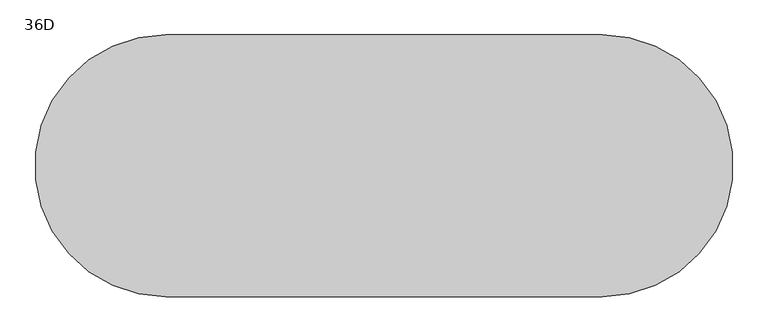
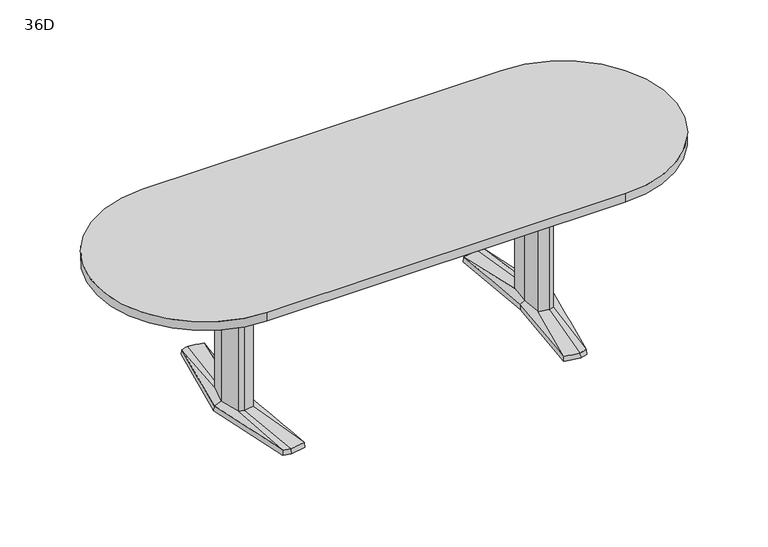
"""IFC4 building model written with IfcOpenShell, lengths in millimetres: furniture geometry, Coalesse_AM_Table_Conference_ETable2_Racetrack_96in_AluminiumBase : 36D."""

from ifc_helpers import new_model, si_unit, point, frame, frame_2d, origin, place, context, project, spatial, polyline, circle_curve, trimmed, segment, composite_curve, outline, extrude, source, transform, mapped, element, save
from ifc_brep_helpers import plane_surface, spline_surface, advanced_brep


def furniture_36d_778fa427(model_context):
    return source(origin(), model_context, "Body", "SolidModel", [
        advanced_brep(
        [(614.8503471, -379.3768856, 25.4), (644.5756636, -371.5332654, 25.4), (668.2327243, -89.293702, 36.5125), (648.9795254, -94.605478, 36.5125), (606.0521001, -87.0529327, 36.5125), (551.7612538, -368.5071562, 25.4), (597.9364207, 0.0, 36.5125), (579.8389754, 0.3970149, 25.4), (606.0521001, 87.0529327, 36.5125), (551.7615002, 368.5172593, 25.4), (648.9795254, 94.605478, 36.5125), (614.8502233, 379.3769183, 25.4), (668.2327243, 89.293702, 36.5125), (644.7535458, 371.4863276, 25.4), (692.1595251, 0.0, 36.5125), (721.4851663, 0.0003516, 25.4), (578.2468742, 0.3968871, 3.175), (550.06875, 369.8367279, 3.175), (614.9213004, 381.0, 3.175), (646.1093245, 372.7704151, 3.175), (723.10625, 0.0, 3.175), (645.9309817, -372.8174744, 3.175), (614.9213004, -381.0, 3.175), (550.06875, -369.8264415, 3.175), (649.5979264, 107.6121478, 3.175), (594.3065451, 97.8843184, 3.175), (585.1810887, 0.0, 3.175), (594.3065451, -97.8843184, 3.175), (649.5979264, -107.6121478, 3.175), (678.6183473, -99.6056872, 3.175), (705.3083085, 0.0, 3.175), (678.6183473, 99.6056872, 3.175), (613.4286812, 346.9152841, 3.175), (557.7811371, 337.3364985, 3.175), (560.1889918, 324.8641942, 3.175), (612.8600644, 333.9306305, 3.175), (648.6725609, 324.4807859, 3.175), (647.5544526, 337.9105158, 3.175), (613.4286812, -346.9152841, 3.175), (647.5544526, -337.9105158, 3.175), (648.6725609, -324.4807859, 3.175), (612.8600644, -333.9306305, 3.175), (560.1889918, -324.8641942, 3.175), (557.7811371, -337.3364985, 3.175), (649.5979264, 107.6121478, 0.0), (678.6183473, 99.6056872, 0.0), (705.3083085, 0.0, 0.0), (678.6183473, -99.6056872, 0.0), (649.5979264, -107.6121478, 0.0), (594.3065451, -97.8843184, 0.0), (585.1810887, 0.0, 0.0), (594.3065451, 97.8843184, 0.0), (613.4286812, 346.9152841, 0.0), (647.5544526, 337.9105158, 0.0), (648.6725609, 324.4807859, 0.0), (612.8600644, 333.9306305, 0.0), (560.1889918, 324.8641942, 0.0), (557.7811371, 337.3364985, 0.0), (613.4286812, -346.9152841, 0.0), (557.7811371, -337.3364985, 0.0), (560.1889918, -324.8641942, 0.0), (612.8600644, -333.9306305, 0.0), (648.6725609, -324.4807859, 0.0), (647.5544526, -337.9105158, 0.0), (668.2327243, 89.293702, 698.5), (648.9795254, 94.605478, 698.5), (606.0521001, 87.0529327, 698.5), (597.9364207, 0.0, 698.5), (606.0521001, -87.0529327, 698.5), (648.9795254, -94.605478, 698.5), (668.2327243, -89.293702, 698.5), (692.1595251, 0.0, 698.5)],
        [
            (0, 1),
            (1, 2),
            (2, 3),
            (3, 0),
            (3, 4),
            (4, 5),
            (5, 0),
            (4, 6),
            (6, 7),
            (7, 5),
            (6, 8),
            (8, 9),
            (9, 7),
            (8, 10),
            (10, 11),
            (11, 9),
            (10, 12),
            (12, 13),
            (13, 11),
            (12, 14),
            (14, 15),
            (15, 13),
            (1, 15),
            (14, 2),
            (16, 17),
            (17, 18),
            (18, 19),
            (19, 20),
            (20, 21),
            (21, 22),
            (22, 23),
            (23, 16),
            (24, 25),
            (25, 26),
            (26, 27),
            (27, 28),
            (28, 29),
            (29, 30),
            (30, 31),
            (31, 24),
            (32, 33),
            (33, 34),
            (34, 35),
            (35, 36),
            (36, 37),
            (37, 32),
            (38, 39),
            (39, 40),
            (40, 41),
            (41, 42),
            (42, 43),
            (43, 38),
            (16, 7),
            (9, 17),
            (11, 18),
            (13, 19),
            (15, 20),
            (1, 21),
            (0, 22),
            (5, 23),
            (44, 45),
            (45, 46),
            (46, 47),
            (47, 48),
            (48, 49),
            (49, 50),
            (50, 51),
            (51, 44),
            (52, 53),
            (53, 54),
            (54, 55),
            (55, 56),
            (56, 57),
            (57, 52),
            (58, 59),
            (59, 60),
            (60, 61),
            (61, 62),
            (62, 63),
            (63, 58),
            (44, 24),
            (31, 45),
            (30, 46),
            (29, 47),
            (28, 48),
            (27, 49),
            (26, 50),
            (25, 51),
            (52, 32),
            (37, 53),
            (36, 54),
            (35, 55),
            (34, 56),
            (33, 57),
            (58, 38),
            (43, 59),
            (42, 60),
            (41, 61),
            (40, 62),
            (39, 63),
            (64, 65),
            (65, 66),
            (66, 67),
            (67, 68),
            (68, 69),
            (69, 70),
            (70, 71),
            (71, 64),
            (71, 14),
            (12, 64),
            (70, 2),
            (69, 3),
            (68, 4),
            (67, 6),
            (66, 8),
            (65, 10),
        ],
        [
            spline_surface(1, 1, [[(644.5756636, -371.5332654, 25.4), (614.8503471, -379.3768856, 25.4)], [(668.2327243, -89.293702, 36.5125), (648.9795254, -94.605478, 36.5125)]], [2, 2], [2, 2], [0.0, 1.0], [0.0, 1.0]),
            spline_surface(1, 1, [[(614.8503471, -379.3768856, 25.4), (551.7612538, -368.5071562, 25.4)], [(648.9795254, -94.605478, 36.5125), (606.0521001, -87.0529327, 36.5125)]], [2, 2], [2, 2], [0.0, 1.0], [0.0, 1.0]),
            spline_surface(1, 1, [[(551.7612538, -368.5071562, 25.4), (579.8389754, 0.3970149, 25.4)], [(606.0521001, -87.0529327, 36.5125), (597.9364207, 0.0, 36.5125)]], [2, 2], [2, 2], [0.0, 1.0], [0.0, 1.0]),
            spline_surface(1, 1, [[(579.8389754, 0.3970149, 25.4), (551.7615002, 368.5172593, 25.4)], [(597.9364207, 0.0, 36.5125), (606.0521001, 87.0529327, 36.5125)]], [2, 2], [2, 2], [0.0, 1.0], [0.0, 1.0]),
            spline_surface(1, 1, [[(551.7615002, 368.5172593, 25.4), (614.8502233, 379.3769183, 25.4)], [(606.0521001, 87.0529327, 36.5125), (648.9795254, 94.605478, 36.5125)]], [2, 2], [2, 2], [0.0, 1.0], [0.0, 1.0]),
            spline_surface(1, 1, [[(614.8502233, 379.3769183, 25.4), (644.7535458, 371.4863276, 25.4)], [(648.9795254, 94.605478, 36.5125), (668.2327243, 89.293702, 36.5125)]], [2, 2], [2, 2], [0.0, 1.0], [0.0, 1.0]),
            spline_surface(1, 1, [[(644.7535458, 371.4863276, 25.4), (721.4851663, 0.0003516, 25.4)], [(668.2327243, 89.293702, 36.5125), (692.1595251, 0.0, 36.5125)]], [2, 2], [2, 2], [0.0, 1.0], [0.0, 1.0]),
            spline_surface(1, 1, [[(721.4851663, 0.0003516, 25.4), (644.5756636, -371.5332654, 25.4)], [(692.1595251, 0.0, 36.5125), (668.2327243, -89.293702, 36.5125)]], [2, 2], [2, 2], [0.0, 1.0], [0.0, 1.0]),
            plane_surface(frame((615.4216914, 0.0450143, 3.175), z_axis=(0.0, 0.0, -1.0), x_axis=(-0.9669048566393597, -0.2551372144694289, 0.0))),
            plane_surface(frame((564.1578121, 185.1168075, 3.175), z_axis=(-0.9945699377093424, -0.07585840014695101, 0.0712470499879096), x_axis=(-0.07605167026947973, 0.9971038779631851, 0.0))),
            plane_surface(frame((582.4950252, 375.418364, 3.175), z_axis=(-0.1692071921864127, 0.9830019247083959, 0.07124704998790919), x_axis=(0.985506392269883, 0.16963829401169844, 0.0))),
            plane_surface(frame((630.5153124, 376.8852076, 3.175), z_axis=(0.2544888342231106, 0.9644476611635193, 0.07124704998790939), x_axis=(0.9669048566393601, -0.25513721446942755, 0.0))),
            plane_surface(frame((684.6077872, 186.3852076, 3.175), z_axis=(0.9768383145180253, 0.2017690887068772, 0.07124704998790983), x_axis=(0.20228315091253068, -0.9793270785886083, 0.0))),
            plane_surface(frame((684.5186158, -186.4087372, 3.175), z_axis=(0.9767507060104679, -0.20219276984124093, 0.07124704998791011), x_axis=(-0.2027079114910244, -0.9792392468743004, 0.0))),
            plane_surface(frame((630.426141, -376.9087372, 3.175), z_axis=(0.2544888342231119, -0.9644476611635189, 0.0712470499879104), x_axis=(-0.9669048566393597, -0.2551372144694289, 0.0))),
            plane_surface(frame((582.4950252, -375.4132207, 3.175), z_axis=(-0.16935861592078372, -0.982975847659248, 0.07124704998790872), x_axis=(-0.9854802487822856, 0.16979010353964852, 0.0))),
            plane_surface(frame((564.1578121, -184.7147772, 3.175), z_axis=(-0.9945820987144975, 0.07569878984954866, 0.07124704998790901), x_axis=(0.07589165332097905, 0.9971160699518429, 0.0))),
            plane_surface(frame((652.3571479, 106.8509046, 0.0), z_axis=(0.0, 0.0, -1.0000000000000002), x_axis=(-0.9639855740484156, 0.26595453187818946, 0.0))),
            plane_surface(frame((649.5979264, 107.6121478, 3.175), z_axis=(0.26595453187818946, 0.9639855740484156, 0.0), x_axis=(0.0, 0.0, -1.0))),
            plane_surface(frame((678.6183473, 99.6056872, 3.175), z_axis=(0.9659241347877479, 0.2588253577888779, 0.0), x_axis=(0.0, 0.0, -1.0))),
            plane_surface(frame((705.3083085, 0.0, 3.175), z_axis=(0.9659241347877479, -0.2588253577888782, 0.0), x_axis=(0.0, 0.0, -1.0))),
            plane_surface(frame((678.6183473, -99.6056872, 3.175), z_axis=(0.26595453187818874, -0.9639855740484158, 0.0), x_axis=(0.0, 0.0, -1.0))),
            plane_surface(frame((649.5979264, -107.6121478, 3.175), z_axis=(-0.17327617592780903, -0.9848732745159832, 0.0), x_axis=(0.0, 0.0, -1.0))),
            plane_surface(frame((594.3065451, -97.8843184, 3.175), z_axis=(-0.9956824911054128, -0.0928244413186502, 0.0), x_axis=(0.0, 0.0, -1.0))),
            plane_surface(frame((585.1810887, 0.0, 3.175), z_axis=(-0.9956824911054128, 0.09282444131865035, 0.0), x_axis=(0.0, 0.0, -1.0))),
            plane_surface(frame((594.3065451, 97.8843184, 3.175), z_axis=(-0.17327617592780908, 0.984873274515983, 0.0), x_axis=(0.0, 0.0, -1.0))),
            plane_surface(frame((613.4286812, 346.9152841, 3.175), z_axis=(0.25513721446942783, 0.9669048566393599, 0.0), x_axis=(0.0, 0.0, -1.0))),
            plane_surface(frame((647.5544526, 337.9105158, 3.175), z_axis=(0.9965521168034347, 0.0829691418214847, 0.0), x_axis=(0.0, 0.0, -1.0))),
            plane_surface(frame((648.6725609, 324.4807859, 3.175), z_axis=(-0.25513721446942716, -0.9669048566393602, 0.0), x_axis=(0.0, 0.0, -1.0))),
            plane_surface(frame((612.8600644, 333.9306305, 3.175), z_axis=(0.16963829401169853, -0.985506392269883, 0.0), x_axis=(0.0, 0.0, -1.0))),
            plane_surface(frame((560.1889918, 324.8641942, 3.175), z_axis=(-0.9818699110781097, -0.18955600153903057, 0.0), x_axis=(0.0, 0.0, -1.0))),
            plane_surface(frame((557.7811371, 337.3364985, 3.175), z_axis=(-0.16963829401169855, 0.9855063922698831, 0.0), x_axis=(0.0, 0.0, -1.0))),
            plane_surface(frame((613.4286812, -346.9152841, 3.175), z_axis=(-0.1696382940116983, -0.9855063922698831, 0.0), x_axis=(0.0, 0.0, -1.0))),
            plane_surface(frame((557.7811371, -337.3364985, 3.175), z_axis=(-0.9818699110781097, 0.18955600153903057, 0.0), x_axis=(0.0, 0.0, -1.0))),
            plane_surface(frame((560.1889918, -324.8641942, 3.175), z_axis=(0.16963829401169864, 0.985506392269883, 0.0), x_axis=(0.0, 0.0, -1.0))),
            plane_surface(frame((612.8600644, -333.9306305, 3.175), z_axis=(-0.2551372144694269, 0.9669048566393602, 0.0), x_axis=(0.0, 0.0, -1.0))),
            plane_surface(frame((648.6725609, -324.4807859, 3.175), z_axis=(0.9965521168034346, -0.0829691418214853, 0.0), x_axis=(0.0, 0.0, -1.0))),
            plane_surface(frame((647.5544526, -337.9105158, 3.175), z_axis=(0.2551372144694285, -0.9669048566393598, 0.0), x_axis=(0.0, 0.0, -1.0))),
            plane_surface(frame((692.1595251, 0.0, 698.5), z_axis=(0.0, 0.0, 1.0), x_axis=(0.25882535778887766, -0.965924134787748, 0.0))),
            plane_surface(frame((668.2327243, 89.293702, 698.5), z_axis=(0.965924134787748, 0.25882535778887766, 0.0), x_axis=(0.0, 0.0, -1.0))),
            plane_surface(frame((692.1595251, 0.0, 698.5), z_axis=(0.965924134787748, -0.2588253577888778, 0.0), x_axis=(0.0, 0.0, -1.0))),
            plane_surface(frame((668.2327243, -89.293702, 698.5), z_axis=(0.2659545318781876, -0.963985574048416, 0.0), x_axis=(0.0, 0.0, -1.0))),
            plane_surface(frame((648.9795254, -94.605478, 698.5), z_axis=(-0.1732761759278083, -0.9848732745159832, 0.0), x_axis=(0.0, 0.0, -1.0))),
            plane_surface(frame((606.0521001, -87.0529327, 698.5), z_axis=(-0.9956824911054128, -0.0928244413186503, 0.0), x_axis=(0.0, 0.0, -1.0))),
            plane_surface(frame((597.9364207, 0.0, 698.5), z_axis=(-0.9956824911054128, 0.09282444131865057, 0.0), x_axis=(0.0, 0.0, -1.0))),
            plane_surface(frame((606.0521001, 87.0529327, 698.5), z_axis=(-0.17327617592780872, 0.9848732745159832, 0.0), x_axis=(0.0, 0.0, -1.0))),
            plane_surface(frame((648.9795254, 94.605478, 698.5), z_axis=(0.26595453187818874, 0.9639855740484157, 0.0), x_axis=(0.0, 0.0, -1.0))),
        ],
        [
            (0, [[1, 2, 3, 4]]),
            (1, [[5, 6, 7, -4]]),
            (2, [[8, 9, 10, -6]]),
            (3, [[11, 12, 13, -9]]),
            (4, [[14, 15, 16, -12]]),
            (5, [[17, 18, 19, -15]]),
            (6, [[20, 21, 22, -18]]),
            (7, [[23, -21, 24, -2]]),
            (8, [[25, 26, 27, 28, 29, 30, 31, 32], [33, 34, 35, 36, 37, 38, 39, 40], [41, 42, 43, 44, 45, 46], [47, 48, 49, 50, 51, 52]]),
            (9, [[53, -13, 54, -25]]),
            (10, [[-54, -16, 55, -26]]),
            (11, [[-55, -19, 56, -27]]),
            (12, [[-56, -22, 57, -28]]),
            (13, [[-57, -23, 58, -29]]),
            (14, [[-58, -1, 59, -30]]),
            (15, [[-59, -7, 60, -31]]),
            (16, [[-60, -10, -53, -32]]),
            (17, [[61, 62, 63, 64, 65, 66, 67, 68]]),
            (17, [[69, 70, 71, 72, 73, 74]]),
            (17, [[75, 76, 77, 78, 79, 80]]),
            (18, [[81, -40, 82, -61]]),
            (19, [[-82, -39, 83, -62]]),
            (20, [[-83, -38, 84, -63]]),
            (21, [[-84, -37, 85, -64]]),
            (22, [[-85, -36, 86, -65]]),
            (23, [[-86, -35, 87, -66]]),
            (24, [[-87, -34, 88, -67]]),
            (25, [[-88, -33, -81, -68]]),
            (26, [[89, -46, 90, -69]]),
            (27, [[-90, -45, 91, -70]]),
            (28, [[-91, -44, 92, -71]]),
            (29, [[-92, -43, 93, -72]]),
            (30, [[-93, -42, 94, -73]]),
            (31, [[-94, -41, -89, -74]]),
            (32, [[95, -52, 96, -75]]),
            (33, [[-96, -51, 97, -76]]),
            (34, [[-97, -50, 98, -77]]),
            (35, [[-98, -49, 99, -78]]),
            (36, [[-99, -48, 100, -79]]),
            (37, [[-100, -47, -95, -80]]),
            (38, [[101, 102, 103, 104, 105, 106, 107, 108]]),
            (39, [[109, -20, 110, -108]]),
            (40, [[111, -24, -109, -107]]),
            (41, [[112, -3, -111, -106]]),
            (42, [[113, -5, -112, -105]]),
            (43, [[114, -8, -113, -104]]),
            (44, [[115, -11, -114, -103]]),
            (45, [[116, -14, -115, -102]]),
            (46, [[-110, -17, -116, -101]]),
        ],
    ),
        advanced_brep(
        [(-614.8503471, -379.3768856, 25.4), (-648.9795254, -94.605478, 36.5125), (-668.2327243, -89.293702, 36.5125), (-644.5756636, -371.5332654, 25.4), (-551.7612538, -368.5071562, 25.4), (-606.0521001, -87.0529327, 36.5125), (-579.8389754, 0.3970149, 25.4), (-597.9364207, 0.0, 36.5125), (-551.7615002, 368.5172593, 25.4), (-606.0521001, 87.0529327, 36.5125), (-614.8502233, 379.3769183, 25.4), (-648.9795254, 94.605478, 36.5125), (-644.7535458, 371.4863276, 25.4), (-668.2327243, 89.293702, 36.5125), (-721.4851663, 0.0003516, 25.4), (-692.1595251, 0.0, 36.5125), (-578.2468742, 0.3968871, 3.175), (-550.06875, -369.8264415, 3.175), (-614.9213004, -381.0, 3.175), (-645.9309817, -372.8174744, 3.175), (-723.10625, 0.0, 3.175), (-646.1093245, 372.7704151, 3.175), (-614.9213004, 381.0, 3.175), (-550.06875, 369.8367279, 3.175), (-649.5979264, 107.6121478, 3.175), (-678.6183473, 99.6056872, 3.175), (-705.3083085, 0.0, 3.175), (-678.6183473, -99.6056872, 3.175), (-649.5979264, -107.6121478, 3.175), (-594.3065451, -97.8843184, 3.175), (-585.1810887, 0.0, 3.175), (-594.3065451, 97.8843184, 3.175), (-613.4286812, 346.9152841, 3.175), (-647.5544526, 337.9105158, 3.175), (-648.6725609, 324.4807859, 3.175), (-612.8600644, 333.9306305, 3.175), (-560.1889918, 324.8641942, 3.175), (-557.7811371, 337.3364985, 3.175), (-613.4286812, -346.9152841, 3.175), (-557.7811371, -337.3364985, 3.175), (-560.1889918, -324.8641942, 3.175), (-612.8600644, -333.9306305, 3.175), (-648.6725609, -324.4807859, 3.175), (-647.5544526, -337.9105158, 3.175), (-649.5979264, 107.6121478, 0.0), (-594.3065451, 97.8843184, 0.0), (-585.1810887, 0.0, 0.0), (-594.3065451, -97.8843184, 0.0), (-649.5979264, -107.6121478, 0.0), (-678.6183473, -99.6056872, 0.0), (-705.3083085, 0.0, 0.0), (-678.6183473, 99.6056872, 0.0), (-613.4286812, 346.9152841, 0.0), (-557.7811371, 337.3364985, 0.0), (-560.1889918, 324.8641942, 0.0), (-612.8600644, 333.9306305, 0.0), (-648.6725609, 324.4807859, 0.0), (-647.5544526, 337.9105158, 0.0), (-613.4286812, -346.9152841, 0.0), (-647.5544526, -337.9105158, 0.0), (-648.6725609, -324.4807859, 0.0), (-612.8600644, -333.9306305, 0.0), (-560.1889918, -324.8641942, 0.0), (-557.7811371, -337.3364985, 0.0), (-668.2327243, 89.293702, 698.5), (-692.1595251, 0.0, 698.5), (-668.2327243, -89.293702, 698.5), (-648.9795254, -94.605478, 698.5), (-606.0521001, -87.0529327, 698.5), (-597.9364207, 0.0, 698.5), (-606.0521001, 87.0529327, 698.5), (-648.9795254, 94.605478, 698.5)],
        [
            (0, 1),
            (1, 2),
            (2, 3),
            (3, 0),
            (0, 4),
            (4, 5),
            (5, 1),
            (4, 6),
            (6, 7),
            (7, 5),
            (6, 8),
            (8, 9),
            (9, 7),
            (8, 10),
            (10, 11),
            (11, 9),
            (10, 12),
            (12, 13),
            (13, 11),
            (12, 14),
            (14, 15),
            (15, 13),
            (2, 15),
            (14, 3),
            (16, 17),
            (17, 18),
            (18, 19),
            (19, 20),
            (20, 21),
            (21, 22),
            (22, 23),
            (23, 16),
            (24, 25),
            (25, 26),
            (26, 27),
            (27, 28),
            (28, 29),
            (29, 30),
            (30, 31),
            (31, 24),
            (32, 33),
            (33, 34),
            (34, 35),
            (35, 36),
            (36, 37),
            (37, 32),
            (38, 39),
            (39, 40),
            (40, 41),
            (41, 42),
            (42, 43),
            (43, 38),
            (23, 8),
            (6, 16),
            (22, 10),
            (21, 12),
            (20, 14),
            (19, 3),
            (18, 0),
            (17, 4),
            (44, 45),
            (45, 46),
            (46, 47),
            (47, 48),
            (48, 49),
            (49, 50),
            (50, 51),
            (51, 44),
            (52, 53),
            (53, 54),
            (54, 55),
            (55, 56),
            (56, 57),
            (57, 52),
            (58, 59),
            (59, 60),
            (60, 61),
            (61, 62),
            (62, 63),
            (63, 58),
            (51, 25),
            (24, 44),
            (50, 26),
            (49, 27),
            (48, 28),
            (47, 29),
            (46, 30),
            (45, 31),
            (57, 33),
            (32, 52),
            (56, 34),
            (55, 35),
            (54, 36),
            (53, 37),
            (63, 39),
            (38, 58),
            (62, 40),
            (61, 41),
            (60, 42),
            (59, 43),
            (64, 65),
            (65, 66),
            (66, 67),
            (67, 68),
            (68, 69),
            (69, 70),
            (70, 71),
            (71, 64),
            (64, 13),
            (15, 65),
            (2, 66),
            (1, 67),
            (5, 68),
            (7, 69),
            (9, 70),
            (11, 71),
        ],
        [
            spline_surface(1, 1, [[(-644.5756636, -371.5332654, 25.4), (-668.2327243, -89.293702, 36.5125)], [(-614.8503471, -379.3768856, 25.4), (-648.9795254, -94.605478, 36.5125)]], [2, 2], [2, 2], [0.0, 1.0], [0.0, 1.0]),
            spline_surface(1, 1, [[(-614.8503471, -379.3768856, 25.4), (-648.9795254, -94.605478, 36.5125)], [(-551.7612538, -368.5071562, 25.4), (-606.0521001, -87.0529327, 36.5125)]], [2, 2], [2, 2], [0.0, 1.0], [0.0, 1.0]),
            spline_surface(1, 1, [[(-551.7612538, -368.5071562, 25.4), (-606.0521001, -87.0529327, 36.5125)], [(-579.8389754, 0.3970149, 25.4), (-597.9364207, 0.0, 36.5125)]], [2, 2], [2, 2], [0.0, 1.0], [0.0, 1.0]),
            spline_surface(1, 1, [[(-579.8389754, 0.3970149, 25.4), (-597.9364207, 0.0, 36.5125)], [(-551.7615002, 368.5172593, 25.4), (-606.0521001, 87.0529327, 36.5125)]], [2, 2], [2, 2], [0.0, 1.0], [0.0, 1.0]),
            spline_surface(1, 1, [[(-551.7615002, 368.5172593, 25.4), (-606.0521001, 87.0529327, 36.5125)], [(-614.8502233, 379.3769183, 25.4), (-648.9795254, 94.605478, 36.5125)]], [2, 2], [2, 2], [0.0, 1.0], [0.0, 1.0]),
            spline_surface(1, 1, [[(-614.8502233, 379.3769183, 25.4), (-648.9795254, 94.605478, 36.5125)], [(-644.7535458, 371.4863276, 25.4), (-668.2327243, 89.293702, 36.5125)]], [2, 2], [2, 2], [0.0, 1.0], [0.0, 1.0]),
            spline_surface(1, 1, [[(-644.7535458, 371.4863276, 25.4), (-668.2327243, 89.293702, 36.5125)], [(-721.4851663, 0.0003516, 25.4), (-692.1595251, 0.0, 36.5125)]], [2, 2], [2, 2], [0.0, 1.0], [0.0, 1.0]),
            spline_surface(1, 1, [[(-721.4851663, 0.0003516, 25.4), (-692.1595251, 0.0, 36.5125)], [(-644.5756636, -371.5332654, 25.4), (-668.2327243, -89.293702, 36.5125)]], [2, 2], [2, 2], [0.0, 1.0], [0.0, 1.0]),
            plane_surface(frame((-615.4216914, 0.0450143, 3.175), z_axis=(0.0, 0.0, -1.0), x_axis=(0.9669048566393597, -0.2551372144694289, 0.0))),
            plane_surface(frame((-564.1578121, 185.1168075, 3.175), z_axis=(0.9945699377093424, -0.07585840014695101, 0.0712470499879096), x_axis=(0.07605167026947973, 0.9971038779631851, 0.0))),
            plane_surface(frame((-582.4950252, 375.418364, 3.175), z_axis=(0.1692071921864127, 0.9830019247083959, 0.07124704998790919), x_axis=(-0.985506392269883, 0.16963829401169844, 0.0))),
            plane_surface(frame((-630.5153124, 376.8852076, 3.175), z_axis=(-0.2544888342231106, 0.9644476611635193, 0.07124704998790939), x_axis=(-0.9669048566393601, -0.25513721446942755, 0.0))),
            plane_surface(frame((-684.6077872, 186.3852076, 3.175), z_axis=(-0.9768383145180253, 0.2017690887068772, 0.07124704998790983), x_axis=(-0.20228315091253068, -0.9793270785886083, 0.0))),
            plane_surface(frame((-684.5186158, -186.4087372, 3.175), z_axis=(-0.9767507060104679, -0.20219276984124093, 0.07124704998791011), x_axis=(0.2027079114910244, -0.9792392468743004, 0.0))),
            plane_surface(frame((-630.426141, -376.9087372, 3.175), z_axis=(-0.2544888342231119, -0.9644476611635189, 0.0712470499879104), x_axis=(0.9669048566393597, -0.2551372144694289, 0.0))),
            plane_surface(frame((-582.4950252, -375.4132207, 3.175), z_axis=(0.16935861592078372, -0.982975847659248, 0.07124704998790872), x_axis=(0.9854802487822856, 0.16979010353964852, 0.0))),
            plane_surface(frame((-564.1578121, -184.7147772, 3.175), z_axis=(0.9945820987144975, 0.07569878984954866, 0.07124704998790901), x_axis=(-0.07589165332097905, 0.9971160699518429, 0.0))),
            plane_surface(frame((-652.3571479, 106.8509046, 0.0), z_axis=(0.0, 0.0, -1.0000000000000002), x_axis=(0.9639855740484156, 0.26595453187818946, 0.0))),
            plane_surface(frame((-649.5979264, 107.6121478, 3.175), z_axis=(-0.26595453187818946, 0.9639855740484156, 0.0), x_axis=(0.0, 0.0, -1.0))),
            plane_surface(frame((-678.6183473, 99.6056872, 3.175), z_axis=(-0.9659241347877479, 0.2588253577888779, 0.0), x_axis=(0.0, 0.0, -1.0))),
            plane_surface(frame((-705.3083085, 0.0, 3.175), z_axis=(-0.9659241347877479, -0.2588253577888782, 0.0), x_axis=(0.0, 0.0, -1.0))),
            plane_surface(frame((-678.6183473, -99.6056872, 3.175), z_axis=(-0.26595453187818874, -0.9639855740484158, 0.0), x_axis=(0.0, 0.0, -1.0))),
            plane_surface(frame((-649.5979264, -107.6121478, 3.175), z_axis=(0.17327617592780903, -0.9848732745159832, 0.0), x_axis=(0.0, 0.0, -1.0))),
            plane_surface(frame((-594.3065451, -97.8843184, 3.175), z_axis=(0.9956824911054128, -0.0928244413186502, 0.0), x_axis=(0.0, 0.0, -1.0))),
            plane_surface(frame((-585.1810887, 0.0, 3.175), z_axis=(0.9956824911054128, 0.09282444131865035, 0.0), x_axis=(0.0, 0.0, -1.0))),
            plane_surface(frame((-594.3065451, 97.8843184, 3.175), z_axis=(0.17327617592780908, 0.984873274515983, 0.0), x_axis=(0.0, 0.0, -1.0))),
            plane_surface(frame((-613.4286812, 346.9152841, 3.175), z_axis=(-0.25513721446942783, 0.9669048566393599, 0.0), x_axis=(0.0, 0.0, -1.0))),
            plane_surface(frame((-647.5544526, 337.9105158, 3.175), z_axis=(-0.9965521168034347, 0.0829691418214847, 0.0), x_axis=(0.0, 0.0, -1.0))),
            plane_surface(frame((-648.6725609, 324.4807859, 3.175), z_axis=(0.25513721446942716, -0.9669048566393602, 0.0), x_axis=(0.0, 0.0, -1.0))),
            plane_surface(frame((-612.8600644, 333.9306305, 3.175), z_axis=(-0.16963829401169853, -0.985506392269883, 0.0), x_axis=(0.0, 0.0, -1.0))),
            plane_surface(frame((-560.1889918, 324.8641942, 3.175), z_axis=(0.9818699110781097, -0.18955600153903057, 0.0), x_axis=(0.0, 0.0, -1.0))),
            plane_surface(frame((-557.7811371, 337.3364985, 3.175), z_axis=(0.16963829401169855, 0.9855063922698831, 0.0), x_axis=(0.0, 0.0, -1.0))),
            plane_surface(frame((-613.4286812, -346.9152841, 3.175), z_axis=(0.1696382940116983, -0.9855063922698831, 0.0), x_axis=(0.0, 0.0, -1.0))),
            plane_surface(frame((-557.7811371, -337.3364985, 3.175), z_axis=(0.9818699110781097, 0.18955600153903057, 0.0), x_axis=(0.0, 0.0, -1.0))),
            plane_surface(frame((-560.1889918, -324.8641942, 3.175), z_axis=(-0.16963829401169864, 0.985506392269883, 0.0), x_axis=(0.0, 0.0, -1.0))),
            plane_surface(frame((-612.8600644, -333.9306305, 3.175), z_axis=(0.2551372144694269, 0.9669048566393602, 0.0), x_axis=(0.0, 0.0, -1.0))),
            plane_surface(frame((-648.6725609, -324.4807859, 3.175), z_axis=(-0.9965521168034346, -0.0829691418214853, 0.0), x_axis=(0.0, 0.0, -1.0))),
            plane_surface(frame((-647.5544526, -337.9105158, 3.175), z_axis=(-0.2551372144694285, -0.9669048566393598, 0.0), x_axis=(0.0, 0.0, -1.0))),
            plane_surface(frame((-692.1595251, 0.0, 698.5), z_axis=(0.0, 0.0, 1.0), x_axis=(-0.25882535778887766, -0.965924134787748, 0.0))),
            plane_surface(frame((-668.2327243, 89.293702, 698.5), z_axis=(-0.965924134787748, 0.25882535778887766, 0.0), x_axis=(0.0, 0.0, -1.0))),
            plane_surface(frame((-692.1595251, 0.0, 698.5), z_axis=(-0.965924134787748, -0.2588253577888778, 0.0), x_axis=(0.0, 0.0, -1.0))),
            plane_surface(frame((-668.2327243, -89.293702, 698.5), z_axis=(-0.2659545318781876, -0.963985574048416, 0.0), x_axis=(0.0, 0.0, -1.0))),
            plane_surface(frame((-648.9795254, -94.605478, 698.5), z_axis=(0.1732761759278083, -0.9848732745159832, 0.0), x_axis=(0.0, 0.0, -1.0))),
            plane_surface(frame((-606.0521001, -87.0529327, 698.5), z_axis=(0.9956824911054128, -0.0928244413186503, 0.0), x_axis=(0.0, 0.0, -1.0))),
            plane_surface(frame((-597.9364207, 0.0, 698.5), z_axis=(0.9956824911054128, 0.09282444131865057, 0.0), x_axis=(0.0, 0.0, -1.0))),
            plane_surface(frame((-606.0521001, 87.0529327, 698.5), z_axis=(0.17327617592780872, 0.9848732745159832, 0.0), x_axis=(0.0, 0.0, -1.0))),
            plane_surface(frame((-648.9795254, 94.605478, 698.5), z_axis=(-0.26595453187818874, 0.9639855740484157, 0.0), x_axis=(0.0, 0.0, -1.0))),
        ],
        [
            (0, [[1, 2, 3, 4]]),
            (1, [[-1, 5, 6, 7]]),
            (2, [[-6, 8, 9, 10]]),
            (3, [[-9, 11, 12, 13]]),
            (4, [[-12, 14, 15, 16]]),
            (5, [[-15, 17, 18, 19]]),
            (6, [[-18, 20, 21, 22]]),
            (7, [[-3, 23, -21, 24]]),
            (8, [[25, 26, 27, 28, 29, 30, 31, 32], [33, 34, 35, 36, 37, 38, 39, 40], [41, 42, 43, 44, 45, 46], [47, 48, 49, 50, 51, 52]]),
            (9, [[-32, 53, -11, 54]]),
            (10, [[-31, 55, -14, -53]]),
            (11, [[-30, 56, -17, -55]]),
            (12, [[-29, 57, -20, -56]]),
            (13, [[-28, 58, -24, -57]]),
            (14, [[-27, 59, -4, -58]]),
            (15, [[-26, 60, -5, -59]]),
            (16, [[-25, -54, -8, -60]]),
            (17, [[61, 62, 63, 64, 65, 66, 67, 68]]),
            (17, [[69, 70, 71, 72, 73, 74]]),
            (17, [[75, 76, 77, 78, 79, 80]]),
            (18, [[-68, 81, -33, 82]]),
            (19, [[-67, 83, -34, -81]]),
            (20, [[-66, 84, -35, -83]]),
            (21, [[-65, 85, -36, -84]]),
            (22, [[-64, 86, -37, -85]]),
            (23, [[-63, 87, -38, -86]]),
            (24, [[-62, 88, -39, -87]]),
            (25, [[-61, -82, -40, -88]]),
            (26, [[-74, 89, -41, 90]]),
            (27, [[-73, 91, -42, -89]]),
            (28, [[-72, 92, -43, -91]]),
            (29, [[-71, 93, -44, -92]]),
            (30, [[-70, 94, -45, -93]]),
            (31, [[-69, -90, -46, -94]]),
            (32, [[-80, 95, -47, 96]]),
            (33, [[-79, 97, -48, -95]]),
            (34, [[-78, 98, -49, -97]]),
            (35, [[-77, 99, -50, -98]]),
            (36, [[-76, 100, -51, -99]]),
            (37, [[-75, -96, -52, -100]]),
            (38, [[101, 102, 103, 104, 105, 106, 107, 108]]),
            (39, [[-101, 109, -22, 110]]),
            (40, [[-102, -110, -23, 111]]),
            (41, [[-103, -111, -2, 112]]),
            (42, [[-104, -112, -7, 113]]),
            (43, [[-105, -113, -10, 114]]),
            (44, [[-106, -114, -13, 115]]),
            (45, [[-107, -115, -16, 116]]),
            (46, [[-108, -116, -19, -109]]),
        ],
    ),
        extrude(outline(polyline([(96.8375, 698.5), (103.1875, 698.5), (103.1875, 476.25), (-103.1875, 476.25), (-103.1875, 698.5), (-96.8375, 698.5), (-96.8375, 482.6), (96.8375, 482.6), (96.8375, 698.5)])), frame((-597.9364207, 0.0, 0.0), z_axis=(1.0, 0.0, 0.0), x_axis=(0.0, 1.0, 0.0)), (0.0, 0.0, 1.0), 1195.8728415),
        extrude(outline(composite_curve([segment(trimmed(circle_curve(frame_2d((762.0, 0.0)), 457.2), [point((762.0, 457.2))], [point((762.0, -457.2))], False, "CARTESIAN"), True, "CONTINUOUS"), segment(polyline([(762.0, -457.2), (-762.0, -457.2)]), True, "CONTINUOUS"), segment(trimmed(circle_curve(frame_2d((-762.0, 0.0)), 457.2), [point((-762.0, -457.2))], [point((-762.0, 457.2))], False, "CARTESIAN"), True, "CONTINUOUS"), segment(polyline([(-762.0, 457.2), (762.0, 457.2)]), True, "CONTINUOUS")], self_intersect=False)), frame((0.0, 0.0, 698.5), z_axis=(0.0, 0.0, 1.0), x_axis=(1.0, 0.0, 0.0)), (0.0, 0.0, 1.0), 38.1),
    ])


if __name__ == "__main__":
    model = new_model("IFC4")
    model_context = context("Model", 3, world=origin())
    ifc_project = project(units=[si_unit("LENGTHUNIT", "METRE", prefix="MILLI")], contexts=[model_context])
    site = spatial("IfcSite", under=ifc_project)
    building = spatial("IfcBuilding", under=site)
    placement = place(None, origin())
    furniture_36d_shape = furniture_36d_778fa427(model_context)
    element("IfcFurniture", 1, ObjectType="Coalesse_AM_Table_Conference_ETable2_Racetrack_96in_AluminiumBase : 36D", at=placement, inside=building, context=model_context, shape_type="MappedRepresentation", body=[
        mapped(furniture_36d_shape, transform((0.0, 0.0, 0.0), x_axis=(1.0, 0.0, 0.0), y_axis=(0.0, 1.0, 0.0), z_axis=(0.0, 0.0, 1.0))),
    ])
    save(model, "model.ifc")
